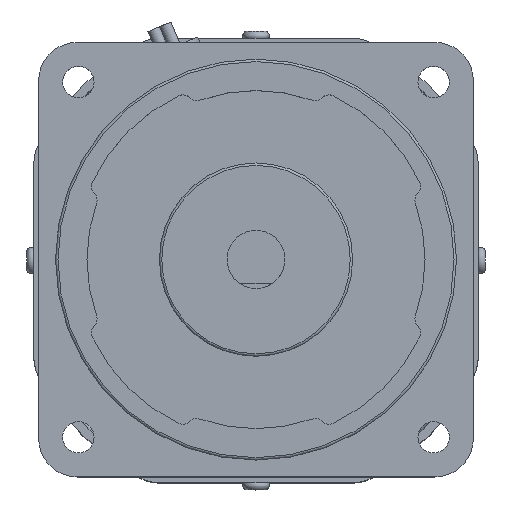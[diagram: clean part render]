
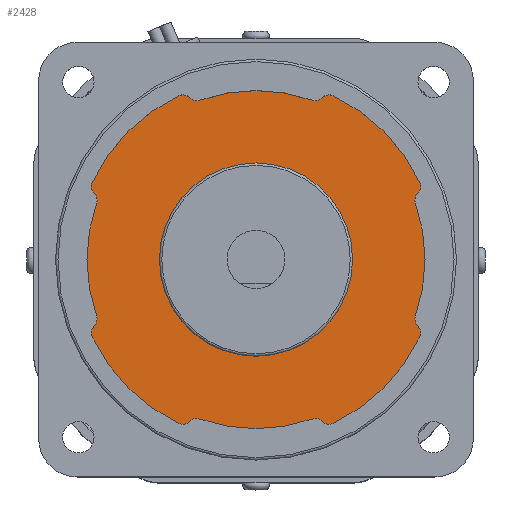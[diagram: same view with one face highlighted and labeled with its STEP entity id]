
A CAD part, top view. The second image highlights one B-rep face of the part: STEP entity #2428.
In plain terms, the highlighted planar face has unit normal (0, 0, 1).
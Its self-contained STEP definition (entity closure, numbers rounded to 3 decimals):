
#2187=CARTESIAN_POINT('',(20.0,0.,160.0));
#2188=VERTEX_POINT('',#2187);
#2189=CARTESIAN_POINT('',(0.,0.,160.0));
#2190=DIRECTION('',(0.0,0.0,-1.0));
#2191=DIRECTION('',(-1.0,0.0,0.0));
#2192=AXIS2_PLACEMENT_3D('',#2189,#2190,#2191);
#2193=CIRCLE('',#2192,20.0);
#2194=EDGE_CURVE('',#2188,#2188,#2193,.T.);
#2202=CARTESIAN_POINT('',(0.,0.,160.0));
#2203=DIRECTION('',(0.0,0.0,1.0));
#2204=DIRECTION('',(1.0,0.0,0.0));
#2205=AXIS2_PLACEMENT_3D('',#2202,#2203,#2204);
#2206=PLANE('',#2205);
#2207=CARTESIAN_POINT('',(-16.006,-33.913,160.0));
#2208=VERTEX_POINT('',#2207);
#2209=CARTESIAN_POINT('',(-13.722,-33.501,160.0));
#2210=VERTEX_POINT('',#2209);
#2211=CARTESIAN_POINT('',(-15.152,-32.104,160.0));
#2212=DIRECTION('',(0.0,0.0,1.0));
#2213=DIRECTION('',(0.427,0.904,0.0));
#2214=AXIS2_PLACEMENT_3D('',#2211,#2212,#2213);
#2215=CIRCLE('',#2214,2.);
#2216=EDGE_CURVE('',#2208,#2210,#2215,.T.);
#2217=ORIENTED_EDGE('',*,*,#2216,.T.);
#2218=CARTESIAN_POINT('',(-11.626,-33.013,160.0));
#2219=VERTEX_POINT('',#2218);
#2220=CARTESIAN_POINT('',(-12.291,-34.899,160.0));
#2221=DIRECTION('',(0.0,0.0,-1.0));
#2222=DIRECTION('',(-0.408,0.913,0.0));
#2223=AXIS2_PLACEMENT_3D('',#2220,#2221,#2222);
#2224=CIRCLE('',#2223,2.0);
#2225=EDGE_CURVE('',#2219,#2210,#2224,.F.);
#2226=ORIENTED_EDGE('',*,*,#2225,.F.);
#2227=CARTESIAN_POINT('',(11.626,-33.013,160.0));
#2228=VERTEX_POINT('',#2227);
#2229=CARTESIAN_POINT('',(0.,0.,160.));
#2230=DIRECTION('',(0.,0.,1.0));
#2231=DIRECTION('',(-0.383,-0.924,0.));
#2232=AXIS2_PLACEMENT_3D('',#2229,#2230,#2231);
#2233=CIRCLE('',#2232,35.0);
#2234=EDGE_CURVE('',#2219,#2228,#2233,.T.);
#2235=ORIENTED_EDGE('',*,*,#2234,.T.);
#2236=CARTESIAN_POINT('',(13.722,-33.501,160.0));
#2237=VERTEX_POINT('',#2236);
#2238=CARTESIAN_POINT('',(12.291,-34.899,160.0));
#2239=DIRECTION('',(0.0,0.0,-1.0));
#2240=DIRECTION('',(0.408,0.913,0.0));
#2241=AXIS2_PLACEMENT_3D('',#2238,#2239,#2240);
#2242=CIRCLE('',#2241,2.0);
#2243=EDGE_CURVE('',#2237,#2228,#2242,.F.);
#2244=ORIENTED_EDGE('',*,*,#2243,.F.);
#2245=CARTESIAN_POINT('',(16.006,-33.913,160.0));
#2246=VERTEX_POINT('',#2245);
#2247=CARTESIAN_POINT('',(15.152,-32.104,160.0));
#2248=DIRECTION('',(0.0,0.0,1.0));
#2249=DIRECTION('',(0.715,0.699,0.0));
#2250=AXIS2_PLACEMENT_3D('',#2247,#2248,#2249);
#2251=CIRCLE('',#2250,2.);
#2252=EDGE_CURVE('',#2237,#2246,#2251,.T.);
#2253=ORIENTED_EDGE('',*,*,#2252,.T.);
#2254=CARTESIAN_POINT('',(33.913,-16.006,160.0));
#2255=VERTEX_POINT('',#2254);
#2256=CARTESIAN_POINT('',(0.,0.,160.));
#2257=DIRECTION('',(0.,0.,1.0));
#2258=DIRECTION('',(0.383,-0.924,0.));
#2259=AXIS2_PLACEMENT_3D('',#2256,#2257,#2258);
#2260=CIRCLE('',#2259,37.5);
#2261=EDGE_CURVE('',#2246,#2255,#2260,.T.);
#2262=ORIENTED_EDGE('',*,*,#2261,.T.);
#2263=CARTESIAN_POINT('',(33.501,-13.722,160.0));
#2264=VERTEX_POINT('',#2263);
#2265=CARTESIAN_POINT('',(32.104,-15.152,160.0));
#2266=DIRECTION('',(0.0,0.0,1.0));
#2267=DIRECTION('',(-0.904,0.427,0.0));
#2268=AXIS2_PLACEMENT_3D('',#2265,#2266,#2267);
#2269=CIRCLE('',#2268,2.);
#2270=EDGE_CURVE('',#2255,#2264,#2269,.T.);
#2271=ORIENTED_EDGE('',*,*,#2270,.T.);
#2272=CARTESIAN_POINT('',(33.013,-11.626,160.0));
#2273=VERTEX_POINT('',#2272);
#2274=CARTESIAN_POINT('',(34.899,-12.291,160.0));
#2275=DIRECTION('',(0.0,0.0,-1.0));
#2276=DIRECTION('',(-0.913,-0.408,0.0));
#2277=AXIS2_PLACEMENT_3D('',#2274,#2275,#2276);
#2278=CIRCLE('',#2277,2.0);
#2279=EDGE_CURVE('',#2273,#2264,#2278,.F.);
#2280=ORIENTED_EDGE('',*,*,#2279,.F.);
#2281=CARTESIAN_POINT('',(33.013,11.626,160.0));
#2282=VERTEX_POINT('',#2281);
#2283=CARTESIAN_POINT('',(0.,0.,160.));
#2284=DIRECTION('',(0.,0.,1.0));
#2285=DIRECTION('',(0.924,-0.383,0.));
#2286=AXIS2_PLACEMENT_3D('',#2283,#2284,#2285);
#2287=CIRCLE('',#2286,35.);
#2288=EDGE_CURVE('',#2273,#2282,#2287,.T.);
#2289=ORIENTED_EDGE('',*,*,#2288,.T.);
#2290=CARTESIAN_POINT('',(33.501,13.722,160.0));
#2291=VERTEX_POINT('',#2290);
#2292=CARTESIAN_POINT('',(34.899,12.291,160.0));
#2293=DIRECTION('',(0.0,0.0,-1.0));
#2294=DIRECTION('',(-0.913,0.408,0.0));
#2295=AXIS2_PLACEMENT_3D('',#2292,#2293,#2294);
#2296=CIRCLE('',#2295,2.0);
#2297=EDGE_CURVE('',#2291,#2282,#2296,.F.);
#2298=ORIENTED_EDGE('',*,*,#2297,.F.);
#2299=CARTESIAN_POINT('',(33.913,16.006,160.0));
#2300=VERTEX_POINT('',#2299);
#2301=CARTESIAN_POINT('',(32.104,15.152,160.0));
#2302=DIRECTION('',(0.0,0.0,1.0));
#2303=DIRECTION('',(-0.699,0.715,0.0));
#2304=AXIS2_PLACEMENT_3D('',#2301,#2302,#2303);
#2305=CIRCLE('',#2304,2.);
#2306=EDGE_CURVE('',#2291,#2300,#2305,.T.);
#2307=ORIENTED_EDGE('',*,*,#2306,.T.);
#2308=CARTESIAN_POINT('',(16.006,33.913,160.0));
#2309=VERTEX_POINT('',#2308);
#2310=CARTESIAN_POINT('',(0.,0.,160.));
#2311=DIRECTION('',(0.,0.,1.0));
#2312=DIRECTION('',(0.924,0.383,0.));
#2313=AXIS2_PLACEMENT_3D('',#2310,#2311,#2312);
#2314=CIRCLE('',#2313,37.5);
#2315=EDGE_CURVE('',#2300,#2309,#2314,.T.);
#2316=ORIENTED_EDGE('',*,*,#2315,.T.);
#2317=CARTESIAN_POINT('',(13.722,33.501,160.0));
#2318=VERTEX_POINT('',#2317);
#2319=CARTESIAN_POINT('',(15.152,32.104,160.0));
#2320=DIRECTION('',(0.0,0.0,1.0));
#2321=DIRECTION('',(-0.427,-0.904,0.0));
#2322=AXIS2_PLACEMENT_3D('',#2319,#2320,#2321);
#2323=CIRCLE('',#2322,2.);
#2324=EDGE_CURVE('',#2309,#2318,#2323,.T.);
#2325=ORIENTED_EDGE('',*,*,#2324,.T.);
#2326=CARTESIAN_POINT('',(11.626,33.013,160.0));
#2327=VERTEX_POINT('',#2326);
#2328=CARTESIAN_POINT('',(12.291,34.899,160.0));
#2329=DIRECTION('',(0.0,0.0,-1.0));
#2330=DIRECTION('',(0.408,-0.913,0.0));
#2331=AXIS2_PLACEMENT_3D('',#2328,#2329,#2330);
#2332=CIRCLE('',#2331,2.0);
#2333=EDGE_CURVE('',#2327,#2318,#2332,.F.);
#2334=ORIENTED_EDGE('',*,*,#2333,.F.);
#2335=CARTESIAN_POINT('',(-11.626,33.013,160.0));
#2336=VERTEX_POINT('',#2335);
#2337=CARTESIAN_POINT('',(0.,0.,160.));
#2338=DIRECTION('',(0.,0.,1.0));
#2339=DIRECTION('',(0.383,0.924,0.));
#2340=AXIS2_PLACEMENT_3D('',#2337,#2338,#2339);
#2341=CIRCLE('',#2340,35.0);
#2342=EDGE_CURVE('',#2327,#2336,#2341,.T.);
#2343=ORIENTED_EDGE('',*,*,#2342,.T.);
#2344=CARTESIAN_POINT('',(-13.722,33.501,160.0));
#2345=VERTEX_POINT('',#2344);
#2346=CARTESIAN_POINT('',(-12.291,34.899,160.0));
#2347=DIRECTION('',(0.0,0.0,-1.0));
#2348=DIRECTION('',(-0.408,-0.913,0.0));
#2349=AXIS2_PLACEMENT_3D('',#2346,#2347,#2348);
#2350=CIRCLE('',#2349,2.0);
#2351=EDGE_CURVE('',#2345,#2336,#2350,.F.);
#2352=ORIENTED_EDGE('',*,*,#2351,.F.);
#2353=CARTESIAN_POINT('',(-16.006,33.913,160.0));
#2354=VERTEX_POINT('',#2353);
#2355=CARTESIAN_POINT('',(-15.152,32.104,160.0));
#2356=DIRECTION('',(0.0,0.0,1.0));
#2357=DIRECTION('',(-0.715,-0.699,0.0));
#2358=AXIS2_PLACEMENT_3D('',#2355,#2356,#2357);
#2359=CIRCLE('',#2358,2.);
#2360=EDGE_CURVE('',#2345,#2354,#2359,.T.);
#2361=ORIENTED_EDGE('',*,*,#2360,.T.);
#2362=CARTESIAN_POINT('',(-33.913,16.006,160.0));
#2363=VERTEX_POINT('',#2362);
#2364=CARTESIAN_POINT('',(0.,0.,160.));
#2365=DIRECTION('',(0.,0.,1.0));
#2366=DIRECTION('',(-0.383,0.924,0.));
#2367=AXIS2_PLACEMENT_3D('',#2364,#2365,#2366);
#2368=CIRCLE('',#2367,37.5);
#2369=EDGE_CURVE('',#2354,#2363,#2368,.T.);
#2370=ORIENTED_EDGE('',*,*,#2369,.T.);
#2371=CARTESIAN_POINT('',(-33.501,13.722,160.0));
#2372=VERTEX_POINT('',#2371);
#2373=CARTESIAN_POINT('',(-32.104,15.152,160.0));
#2374=DIRECTION('',(0.0,0.0,1.0));
#2375=DIRECTION('',(0.904,-0.427,0.0));
#2376=AXIS2_PLACEMENT_3D('',#2373,#2374,#2375);
#2377=CIRCLE('',#2376,2.);
#2378=EDGE_CURVE('',#2363,#2372,#2377,.T.);
#2379=ORIENTED_EDGE('',*,*,#2378,.T.);
#2380=CARTESIAN_POINT('',(-33.013,11.626,160.0));
#2381=VERTEX_POINT('',#2380);
#2382=CARTESIAN_POINT('',(-34.899,12.291,160.0));
#2383=DIRECTION('',(0.0,0.0,-1.0));
#2384=DIRECTION('',(0.913,0.408,0.0));
#2385=AXIS2_PLACEMENT_3D('',#2382,#2383,#2384);
#2386=CIRCLE('',#2385,2.0);
#2387=EDGE_CURVE('',#2381,#2372,#2386,.F.);
#2388=ORIENTED_EDGE('',*,*,#2387,.F.);
#2389=CARTESIAN_POINT('',(-33.013,-11.626,160.0));
#2390=VERTEX_POINT('',#2389);
#2391=CARTESIAN_POINT('',(0.,0.,160.));
#2392=DIRECTION('',(0.,0.,1.0));
#2393=DIRECTION('',(-0.924,0.383,0.));
#2394=AXIS2_PLACEMENT_3D('',#2391,#2392,#2393);
#2395=CIRCLE('',#2394,35.0);
#2396=EDGE_CURVE('',#2381,#2390,#2395,.T.);
#2397=ORIENTED_EDGE('',*,*,#2396,.T.);
#2398=CARTESIAN_POINT('',(-33.501,-13.722,160.0));
#2399=VERTEX_POINT('',#2398);
#2400=CARTESIAN_POINT('',(-34.899,-12.291,160.0));
#2401=DIRECTION('',(0.0,0.0,-1.0));
#2402=DIRECTION('',(0.913,-0.408,0.0));
#2403=AXIS2_PLACEMENT_3D('',#2400,#2401,#2402);
#2404=CIRCLE('',#2403,2.0);
#2405=EDGE_CURVE('',#2399,#2390,#2404,.F.);
#2406=ORIENTED_EDGE('',*,*,#2405,.F.);
#2407=CARTESIAN_POINT('',(-33.913,-16.006,160.0));
#2408=VERTEX_POINT('',#2407);
#2409=CARTESIAN_POINT('',(-32.104,-15.152,160.0));
#2410=DIRECTION('',(0.0,0.0,1.0));
#2411=DIRECTION('',(0.699,-0.715,0.0));
#2412=AXIS2_PLACEMENT_3D('',#2409,#2410,#2411);
#2413=CIRCLE('',#2412,2.);
#2414=EDGE_CURVE('',#2399,#2408,#2413,.T.);
#2415=ORIENTED_EDGE('',*,*,#2414,.T.);
#2416=CARTESIAN_POINT('',(0.,0.,160.));
#2417=DIRECTION('',(0.,0.,1.0));
#2418=DIRECTION('',(-0.924,-0.383,0.));
#2419=AXIS2_PLACEMENT_3D('',#2416,#2417,#2418);
#2420=CIRCLE('',#2419,37.5);
#2421=EDGE_CURVE('',#2408,#2208,#2420,.T.);
#2422=ORIENTED_EDGE('',*,*,#2421,.T.);
#2423=EDGE_LOOP('',(#2217,#2226,#2235,#2244,#2253,#2262,#2271,#2280,#2289,#2298,#2307,#2316,#2325,#2334,#2343,#2352,#2361,#2370,#2379,#2388,#2397,#2406,#2415,#2422));
#2424=FACE_OUTER_BOUND('',#2423,.T.);
#2425=ORIENTED_EDGE('',*,*,#2194,.T.);
#2426=EDGE_LOOP('',(#2425));
#2427=FACE_BOUND('',#2426,.T.);
#2428=ADVANCED_FACE('',(#2424,#2427),#2206,.T.);
